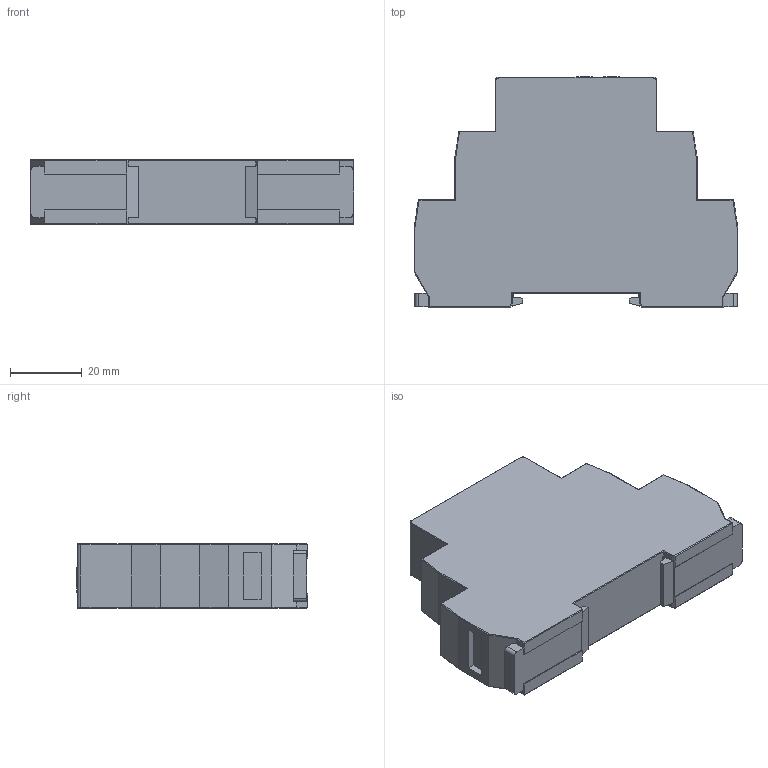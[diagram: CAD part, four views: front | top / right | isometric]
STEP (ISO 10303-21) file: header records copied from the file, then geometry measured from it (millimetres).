
FILE_DESCRIPTION (( 'STEP AP214' ), '1' );
FILE_NAME ('GEYA_GRT8-A1_3D.STEP', '2023-11-02T07:42:34', ( '' ), ( '' ), 'SwSTEP 2.0', 'SolidWorks 2018', '' );
FILE_SCHEMA (( 'AUTOMOTIVE_DESIGN' ));
Length unit declared in the file: millimetre
Products named in the file (1): GEYA_GRT8-A1_3D
Bounding box: 90 x 64.27 x 17.8 mm (x, y, z)
Volume: 79086.6 mm3; surface area: 15313.6 mm2
Topology: 1 solids, 1 shells, 370 faces, 924 edges, 568 vertices
Faces by surface type: plane 236, cylinder 98, cone 26, bspline 10
Entity records: 12584 total; most frequent: CARTESIAN_POINT 2379, ORIENTED_EDGE 1832, DIRECTION 1716, EDGE_CURVE 916, VECTOR 622, LINE 622, VERTEX_POINT 568, AXIS2_PLACEMENT_3D 547
